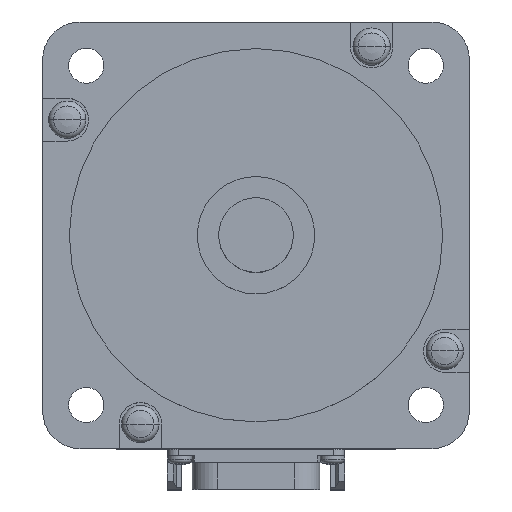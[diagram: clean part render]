
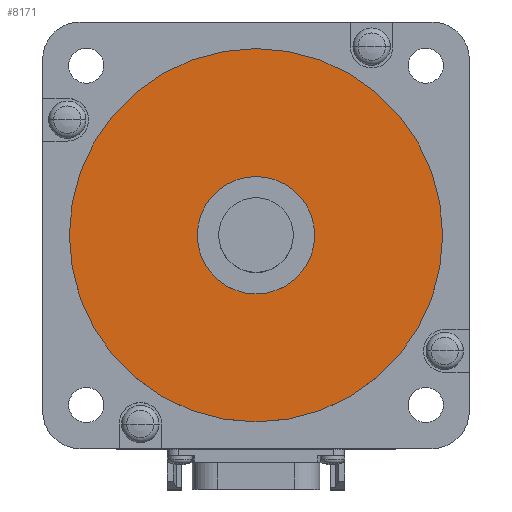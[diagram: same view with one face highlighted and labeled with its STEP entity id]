
A CAD part, top view. The second image highlights one B-rep face of the part: STEP entity #8171.
In plain terms, the highlighted planar face has unit normal (0, 0, 1).
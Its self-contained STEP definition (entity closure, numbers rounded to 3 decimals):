
#1855=CARTESIAN_POINT('',(0.,0.,3.));
#1856=DIRECTION('',(0.,0.,-1.));
#1857=DIRECTION('',(1.,0.,0.));
#1858=AXIS2_PLACEMENT_3D('',#1855,#1856,#1857);
#1860=CARTESIAN_POINT('',(0.,0.,3.));
#1861=DIRECTION('',(0.,0.,-1.));
#1862=DIRECTION('',(-1.,0.,0.));
#1863=AXIS2_PLACEMENT_3D('',#1860,#1861,#1862);
#1865=CARTESIAN_POINT('',(0.,0.,3.));
#1866=DIRECTION('',(0.,0.,1.));
#1867=DIRECTION('',(1.,0.,0.));
#1868=AXIS2_PLACEMENT_3D('',#1865,#1866,#1867);
#1870=CARTESIAN_POINT('',(0.,0.,3.));
#1871=DIRECTION('',(0.,0.,1.));
#1872=DIRECTION('',(-1.,0.,0.));
#1873=AXIS2_PLACEMENT_3D('',#1870,#1871,#1872);
#4624=CARTESIAN_POINT('',(35.,0.,3.));
#4625=VERTEX_POINT('',#4624);
#4626=CARTESIAN_POINT('',(-35.,0.,3.));
#4627=VERTEX_POINT('',#4626);
#5696=CARTESIAN_POINT('',(11.,0.,3.));
#5697=CARTESIAN_POINT('',(-11.,0.,3.));
#5698=VERTEX_POINT('',#5696);
#5699=VERTEX_POINT('',#5697);
#8155=CARTESIAN_POINT('',(0.,0.,3.));
#8156=DIRECTION('',(0.,0.,1.));
#8157=DIRECTION('',(1.,0.,0.));
#8158=AXIS2_PLACEMENT_3D('',#8155,#8156,#8157);
#8159=PLANE('',#8158);
#8160=ORIENTED_EDGE('',*,*,#8145,.T.);
#8162=ORIENTED_EDGE('',*,*,#8161,.T.);
#8163=EDGE_LOOP('',(#8160,#8162));
#8164=FACE_OUTER_BOUND('',#8163,.F.);
#8166=ORIENTED_EDGE('',*,*,#8165,.T.);
#8168=ORIENTED_EDGE('',*,*,#8167,.T.);
#8169=EDGE_LOOP('',(#8166,#8168));
#8170=FACE_BOUND('',#8169,.F.);
#8171=ADVANCED_FACE('',(#8164,#8170),#8159,.T.);
#1859=CIRCLE('',#1858,35.);
#1864=CIRCLE('',#1863,35.);
#1869=CIRCLE('',#1868,11.);
#1874=CIRCLE('',#1873,11.);
#8145=EDGE_CURVE('',#4625,#4627,#1859,.T.);
#8161=EDGE_CURVE('',#4627,#4625,#1864,.T.);
#8165=EDGE_CURVE('',#5698,#5699,#1869,.T.);
#8167=EDGE_CURVE('',#5699,#5698,#1874,.T.);
